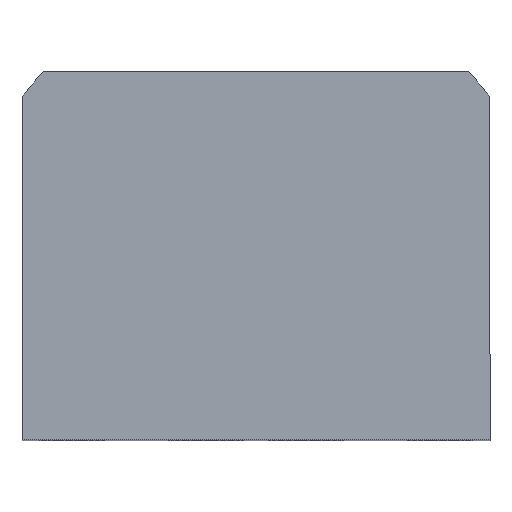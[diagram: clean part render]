
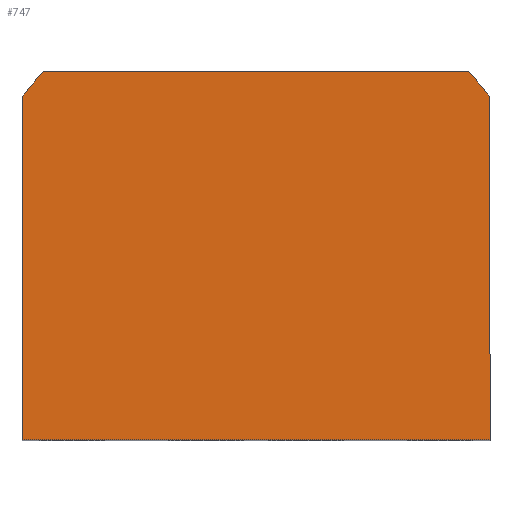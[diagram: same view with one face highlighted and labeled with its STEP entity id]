
A CAD part, top view. The second image highlights one B-rep face of the part: STEP entity #747.
In plain terms, the highlighted planar face has unit normal (0, 0, 1).
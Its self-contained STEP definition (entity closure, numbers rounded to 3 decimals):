
#229 = CARTESIAN_POINT ( 'NONE',  ( -47., 34.832, 35. ) ) ;
#548 = EDGE_CURVE ( 'NONE', #801, #2671, #7266, .T. ) ;
#747 = ADVANCED_FACE ( 'NONE', ( #849 ), #2393, .T. ) ;
#773 = EDGE_CURVE ( 'NONE', #6713, #801, #3065, .T. ) ;
#801 = VERTEX_POINT ( 'NONE', #3343 ) ;
#849 = FACE_OUTER_BOUND ( 'NONE', #10433, .T. ) ;
#1233 = VECTOR ( 'NONE', #6298, 1000. ) ;
#1344 = ORIENTED_EDGE ( 'NONE', *, *, #548, .T. ) ;
#1571 = VERTEX_POINT ( 'NONE', #229 ) ;
#2278 = VECTOR ( 'NONE', #4090, 1000. ) ;
#2282 = CARTESIAN_POINT ( 'NONE',  ( 0., 0., 35. ) ) ;
#2315 = AXIS2_PLACEMENT_3D ( 'NONE', #2282, #3121, #3934 ) ;
#2393 = PLANE ( 'NONE',  #2315 ) ;
#2467 = CARTESIAN_POINT ( 'NONE',  ( -47., -34., 35. ) ) ;
#2671 = VERTEX_POINT ( 'NONE', #10554 ) ;
#3065 = LINE ( 'NONE', #3235, #7010 ) ;
#3121 = DIRECTION ( 'NONE',  ( 0., 0., 1. ) ) ;
#3235 = CARTESIAN_POINT ( 'NONE',  ( 47., -34., 35. ) ) ;
#3244 = AXIS2_PLACEMENT_3D ( 'NONE', #10083, #9297, #3561 ) ;
#3271 = ORIENTED_EDGE ( 'NONE', *, *, #3613, .T. ) ;
#3343 = CARTESIAN_POINT ( 'NONE',  ( 47., -34., 35. ) ) ;
#3516 = CARTESIAN_POINT ( 'NONE',  ( 0., 0., 35. ) ) ;
#3533 = CIRCLE ( 'NONE', #7644, 58.5 ) ;
#3561 = DIRECTION ( 'NONE',  ( 1., 0., 0. ) ) ;
#3613 = EDGE_CURVE ( 'NONE', #2671, #6848, #5811, .T. ) ;
#3934 = DIRECTION ( 'NONE',  ( 1., 0., 0. ) ) ;
#4090 = DIRECTION ( 'NONE',  ( -1., 0., 0. ) ) ;
#4401 = DIRECTION ( 'NONE',  ( 1., 0., 0. ) ) ;
#4667 = ORIENTED_EDGE ( 'NONE', *, *, #773, .T. ) ;
#4684 = ORIENTED_EDGE ( 'NONE', *, *, #5946, .T. ) ;
#5041 = CARTESIAN_POINT ( 'NONE',  ( 42.688, 40., 35. ) ) ;
#5356 = EDGE_CURVE ( 'NONE', #1571, #6713, #7909, .T. ) ;
#5743 = VECTOR ( 'NONE', #7753, 1000. ) ;
#5811 = CIRCLE ( 'NONE', #3244, 58.5 ) ;
#5946 = EDGE_CURVE ( 'NONE', #6848, #10502, #10225, .T. ) ;
#6298 = DIRECTION ( 'NONE',  ( 0., 1., 0. ) ) ;
#6557 = EDGE_CURVE ( 'NONE', #10502, #1571, #3533, .T. ) ;
#6713 = VERTEX_POINT ( 'NONE', #2467 ) ;
#6748 = ORIENTED_EDGE ( 'NONE', *, *, #6557, .T. ) ;
#6848 = VERTEX_POINT ( 'NONE', #5041 ) ;
#7010 = VECTOR ( 'NONE', #9671, 1000. ) ;
#7266 = LINE ( 'NONE', #7825, #1233 ) ;
#7579 = DIRECTION ( 'NONE',  ( 0., 0., 1. ) ) ;
#7644 = AXIS2_PLACEMENT_3D ( 'NONE', #3516, #7579, #4401 ) ;
#7753 = DIRECTION ( 'NONE',  ( 0., -1., 0. ) ) ;
#7825 = CARTESIAN_POINT ( 'NONE',  ( 47., 34.832, 35. ) ) ;
#7909 = LINE ( 'NONE', #10207, #5743 ) ;
#8974 = CARTESIAN_POINT ( 'NONE',  ( -42.688, 40., 35. ) ) ;
#9297 = DIRECTION ( 'NONE',  ( 0., 0., 1. ) ) ;
#9671 = DIRECTION ( 'NONE',  ( 1., 0., 0. ) ) ;
#10044 = CARTESIAN_POINT ( 'NONE',  ( -42.688, 40., 35. ) ) ;
#10083 = CARTESIAN_POINT ( 'NONE',  ( 0., 0., 35. ) ) ;
#10207 = CARTESIAN_POINT ( 'NONE',  ( -47., -34., 35. ) ) ;
#10225 = LINE ( 'NONE', #8974, #2278 ) ;
#10433 = EDGE_LOOP ( 'NONE', ( #4667, #1344, #3271, #4684, #6748, #10534 ) ) ;
#10502 = VERTEX_POINT ( 'NONE', #10044 ) ;
#10534 = ORIENTED_EDGE ( 'NONE', *, *, #5356, .T. ) ;
#10554 = CARTESIAN_POINT ( 'NONE',  ( 47., 34.832, 35. ) ) ;
